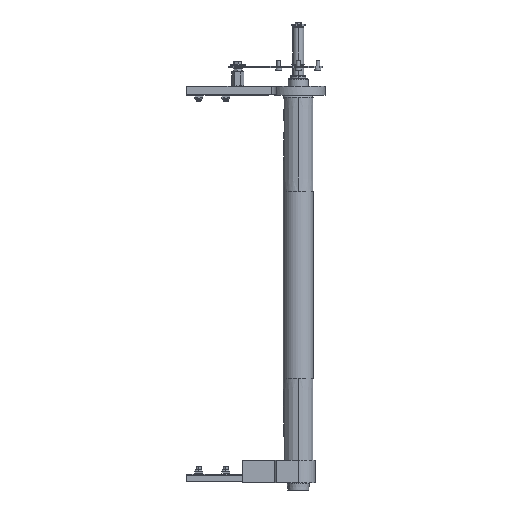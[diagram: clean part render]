
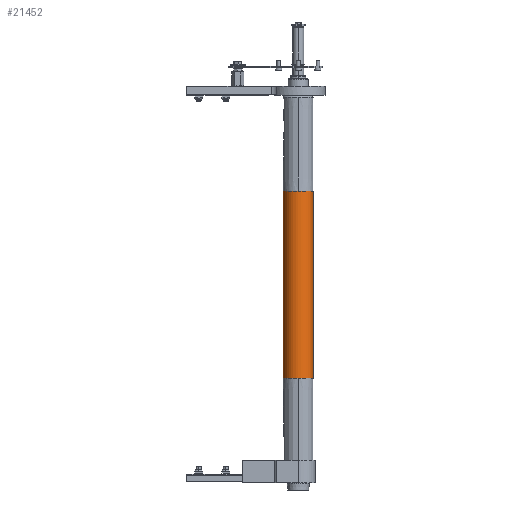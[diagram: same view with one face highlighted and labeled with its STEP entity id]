
A CAD part, front view. The second image highlights one B-rep face of the part: STEP entity #21452.
In plain terms, the highlighted cylindrical face has radius 25 mm (diameter 50 mm), a partial arc.
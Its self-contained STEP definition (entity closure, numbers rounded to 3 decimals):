
#855 = CARTESIAN_POINT ( 'NONE',  ( 155., 25., 0. ) ) ;
#1555 = DIRECTION ( 'NONE',  ( -1., 0., 0. ) ) ;
#1846 = VECTOR ( 'NONE', #14466, 1000. ) ;
#1977 = ORIENTED_EDGE ( 'NONE', *, *, #6114, .F. ) ;
#2048 = CIRCLE ( 'NONE', #3199, 25. ) ;
#2436 = LINE ( 'NONE', #14982, #17079 ) ;
#2601 = DIRECTION ( 'NONE',  ( -1., 0., 0. ) ) ;
#3199 = AXIS2_PLACEMENT_3D ( 'NONE', #16352, #4900, #18267 ) ;
#3215 = ORIENTED_EDGE ( 'NONE', *, *, #18557, .T. ) ;
#3852 = CIRCLE ( 'NONE', #17497, 25. ) ;
#4126 = VERTEX_POINT ( 'NONE', #10637 ) ;
#4886 = CARTESIAN_POINT ( 'NONE',  ( 155., 0., -25. ) ) ;
#4900 = DIRECTION ( 'NONE',  ( -1., 0., 0. ) ) ;
#5827 = CARTESIAN_POINT ( 'NONE',  ( 310., 0., 0. ) ) ;
#6114 = EDGE_CURVE ( 'NONE', #20189, #4126, #15929, .T. ) ;
#6202 = ORIENTED_EDGE ( 'NONE', *, *, #10128, .F. ) ;
#6348 = AXIS2_PLACEMENT_3D ( 'NONE', #12976, #1555, #14909 ) ;
#6742 = DIRECTION ( 'NONE',  ( -1., 0., 0. ) ) ;
#7389 = CYLINDRICAL_SURFACE ( 'NONE', #19141, 25. ) ;
#9171 = EDGE_CURVE ( 'NONE', #20400, #23355, #10435, .T. ) ;
#9793 = CARTESIAN_POINT ( 'NONE',  ( -155., 25., 0. ) ) ;
#10128 = EDGE_CURVE ( 'NONE', #13762, #20189, #3852, .T. ) ;
#10435 = CIRCLE ( 'NONE', #11226, 25. ) ;
#10637 = CARTESIAN_POINT ( 'NONE',  ( -155., 0., -25. ) ) ;
#11226 = AXIS2_PLACEMENT_3D ( 'NONE', #18200, #6742, #20113 ) ;
#12535 = ORIENTED_EDGE ( 'NONE', *, *, #18605, .F. ) ;
#12976 = CARTESIAN_POINT ( 'NONE',  ( -155., 0., 0. ) ) ;
#13431 = DIRECTION ( 'NONE',  ( -1., 0., 0. ) ) ;
#13762 = VERTEX_POINT ( 'NONE', #17136 ) ;
#14037 = CARTESIAN_POINT ( 'NONE',  ( -155., 0., 0. ) ) ;
#14373 = CARTESIAN_POINT ( 'NONE',  ( 310., 0., 25. ) ) ;
#14466 = DIRECTION ( 'NONE',  ( -1., 0., 0. ) ) ;
#14909 = DIRECTION ( 'NONE',  ( 0., -1., 0. ) ) ;
#14982 = CARTESIAN_POINT ( 'NONE',  ( 310., 0., -25. ) ) ;
#15253 = EDGE_LOOP ( 'NONE', ( #23361, #20523, #3215, #1977, #6202, #12535 ) ) ;
#15929 = CIRCLE ( 'NONE', #6348, 25. ) ;
#15949 = DIRECTION ( 'NONE',  ( 0., -1., 0. ) ) ;
#16352 = CARTESIAN_POINT ( 'NONE',  ( 155., 0., 0. ) ) ;
#17079 = VECTOR ( 'NONE', #18149, 1000. ) ;
#17136 = CARTESIAN_POINT ( 'NONE',  ( -155., 0., 25. ) ) ;
#17497 = AXIS2_PLACEMENT_3D ( 'NONE', #14037, #2601, #15949 ) ;
#17567 = FACE_OUTER_BOUND ( 'NONE', #15253, .T. ) ;
#17677 = LINE ( 'NONE', #14373, #1846 ) ;
#18149 = DIRECTION ( 'NONE',  ( -1., 0., 0. ) ) ;
#18200 = CARTESIAN_POINT ( 'NONE',  ( 155., 0., 0. ) ) ;
#18267 = DIRECTION ( 'NONE',  ( 0., -1., 0. ) ) ;
#18557 = EDGE_CURVE ( 'NONE', #23355, #4126, #2436, .T. ) ;
#18605 = EDGE_CURVE ( 'NONE', #18780, #13762, #17677, .T. ) ;
#18780 = VERTEX_POINT ( 'NONE', #24301 ) ;
#19141 = AXIS2_PLACEMENT_3D ( 'NONE', #5827, #13431, #19204 ) ;
#19204 = DIRECTION ( 'NONE',  ( 0., 0., 1. ) ) ;
#20113 = DIRECTION ( 'NONE',  ( 0., -1., 0. ) ) ;
#20189 = VERTEX_POINT ( 'NONE', #9793 ) ;
#20400 = VERTEX_POINT ( 'NONE', #855 ) ;
#20523 = ORIENTED_EDGE ( 'NONE', *, *, #9171, .T. ) ;
#21452 = ADVANCED_FACE ( 'NONE', ( #17567 ), #7389, .T. ) ;
#23355 = VERTEX_POINT ( 'NONE', #4886 ) ;
#23361 = ORIENTED_EDGE ( 'NONE', *, *, #24464, .T. ) ;
#24301 = CARTESIAN_POINT ( 'NONE',  ( 155., 0., 25. ) ) ;
#24464 = EDGE_CURVE ( 'NONE', #18780, #20400, #2048, .T. ) ;
